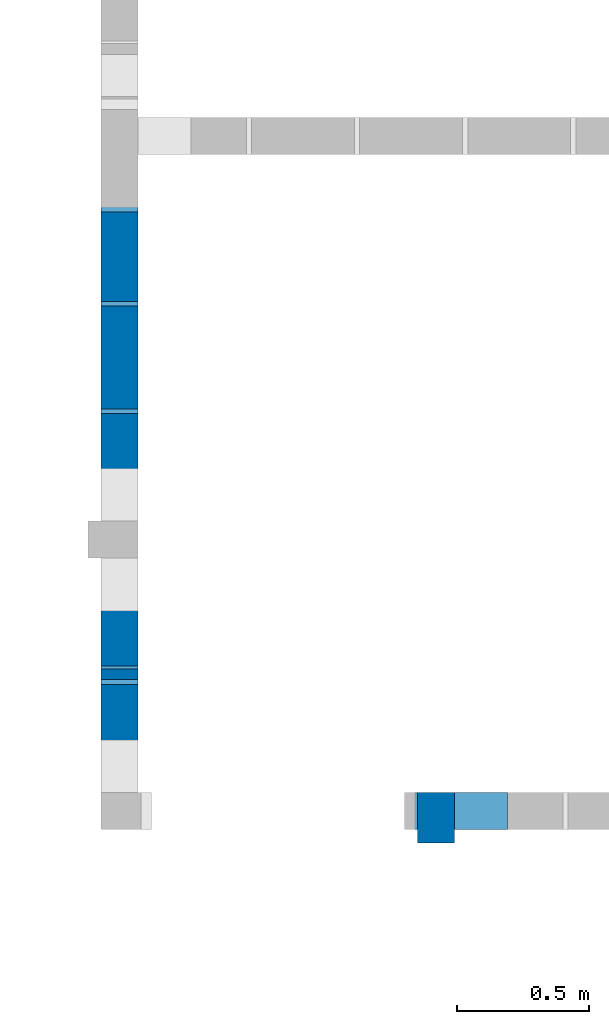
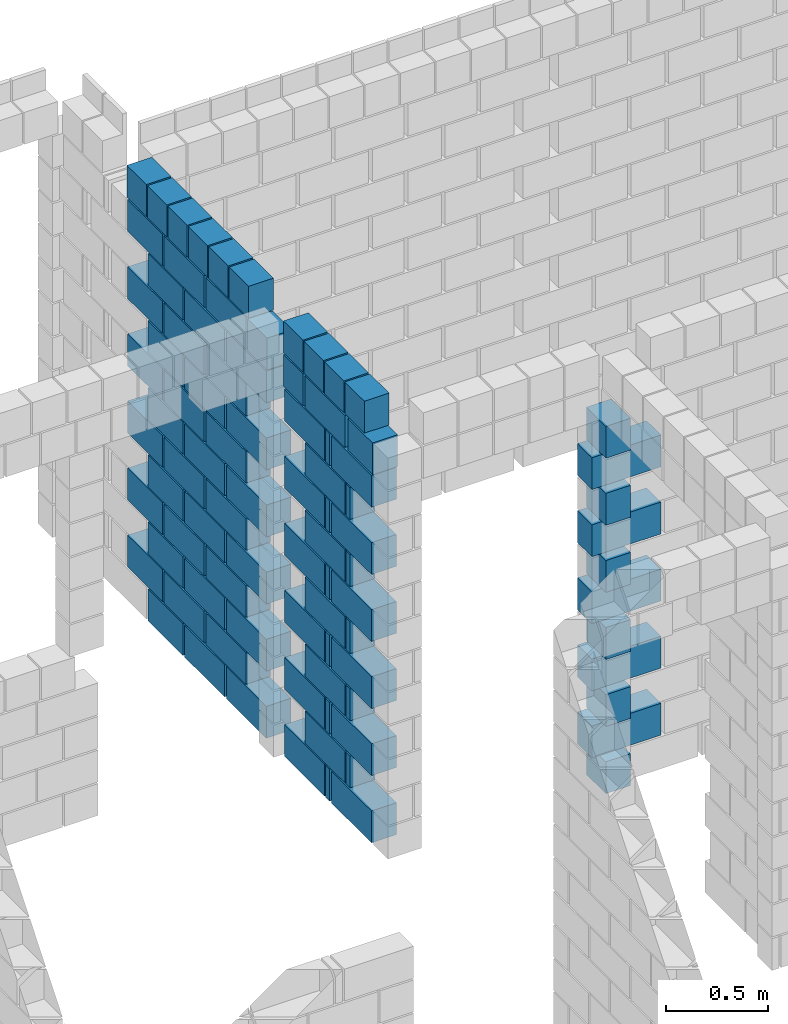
# One storey, part 9 of 12: 3 walls.
"""IFC4 building model written with IfcOpenShell, lengths in centimetres."""

from ifc_helpers import new_model, si_unit, derived_unit, frame, origin, origin_with_axes, origin_2d_with_axis, place, context, project, spatial, rectangle, extrude, element, save


model = new_model("IFC4")

# Units and contexts
model_context = context("Model", 3, precision=1e-05, world=origin_with_axes(), identifier="Body")
ifc_project = project(units=[si_unit("LENGTHUNIT", "METRE", prefix="CENTI"), si_unit("VOLUMEUNIT", "CUBIC_METRE"), si_unit("AREAUNIT", "SQUARE_METRE"), si_unit("POWERUNIT", "WATT"), si_unit("LUMINOUSFLUXUNIT", "LUMEN"), si_unit("ELECTRICCURRENTUNIT", "AMPERE"), si_unit("PRESSUREUNIT", "PASCAL", prefix="KILO"), si_unit("MASSUNIT", "GRAM", prefix="KILO"), si_unit("PLANEANGLEUNIT", "RADIAN"), derived_unit("VOLUMETRICFLOWRATEUNIT", [(si_unit("LENGTHUNIT", "METRE"), 3), (si_unit("TIMEUNIT", "SECOND"), -1)])], contexts=[model_context])

# Site, building, storey
site_placement = place(None, origin_with_axes())
site = spatial("IfcSite", under=ifc_project, at=site_placement)
building_placement = place(site_placement, origin())
building = spatial("IfcBuilding", under=site, at=building_placement)
storey_placement = place(building_placement, origin_with_axes())
storey = spatial("IfcBuildingStorey", under=building, at=storey_placement, Name="PISO", CompositionType="ELEMENT", Elevation=0.0)

# Walls
wall_1_placement = place(storey_placement, frame((411.51, 554.51, 219.0), z_axis=(0.0, 0.0, 1.0), x_axis=(1.0, 0.0, 0.0)))
element("IfcWall", 1, at=wall_1_placement, inside=storey, context=model_context, shape_type="SolidModel", body=[
    extrude(rectangle(XDim=19.0, YDim=14.0, at=origin_2d_with_axis()), frame((-7.5, 0.0, -219.0), z_axis=(0.0, 0.0, 1.0), x_axis=(0.0, -1.0, 0.0)), (0.0, 0.0, 1.0), 19.0),
    extrude(rectangle(XDim=39.0, YDim=14.0, at=origin_2d_with_axis()), frame((0.0, 2.5, -199.0), z_axis=(0.0, 0.0, 1.0), x_axis=(-1.0, 0.0, 0.0)), (0.0, 0.0, 1.0), 19.0),
    extrude(rectangle(XDim=19.0, YDim=14.0, at=origin_2d_with_axis()), frame((-7.5, 0.0, -179.0), z_axis=(0.0, 0.0, 1.0), x_axis=(0.0, -1.0, 0.0)), (0.0, 0.0, 1.0), 19.0),
    extrude(rectangle(XDim=39.0, YDim=14.0, at=origin_2d_with_axis()), frame((0.0, 2.5, -159.0), z_axis=(0.0, 0.0, 1.0), x_axis=(-1.0, 0.0, 0.0)), (0.0, 0.0, 1.0), 19.0),
    extrude(rectangle(XDim=19.0, YDim=14.0, at=origin_2d_with_axis()), frame((-7.5, 0.0, -139.0), z_axis=(0.0, 0.0, 1.0), x_axis=(0.0, -1.0, 0.0)), (0.0, 0.0, 1.0), 19.0),
    extrude(rectangle(XDim=39.0, YDim=14.0, at=origin_2d_with_axis()), frame((0.0, 2.5, -119.0), z_axis=(0.0, 0.0, 1.0), x_axis=(-1.0, 0.0, 0.0)), (0.0, 0.0, 1.0), 19.0),
    extrude(rectangle(XDim=19.0, YDim=14.0, at=origin_2d_with_axis()), frame((-7.5, 0.0, -99.0), z_axis=(0.0, 0.0, 1.0), x_axis=(0.0, -1.0, 0.0)), (0.0, 0.0, 1.0), 19.0),
    extrude(rectangle(XDim=39.0, YDim=14.0, at=origin_2d_with_axis()), frame((0.0, 2.5, -79.0), z_axis=(0.0, 0.0, 1.0), x_axis=(-1.0, 0.0, 0.0)), (0.0, 0.0, 1.0), 19.0),
    extrude(rectangle(XDim=19.0, YDim=14.0, at=origin_2d_with_axis()), frame((-7.5, 0.0, -59.0), z_axis=(0.0, 0.0, 1.0), x_axis=(0.0, -1.0, 0.0)), (0.0, 0.0, 1.0), 19.0),
    extrude(rectangle(XDim=39.0, YDim=14.0, at=origin_2d_with_axis()), frame((0.0, 2.5, -39.0), z_axis=(0.0, 0.0, 1.0), x_axis=(-1.0, 0.0, 0.0)), (0.0, 0.0, 1.0), 19.0),
    extrude(rectangle(XDim=19.0, YDim=14.0, at=origin_2d_with_axis()), frame((-7.5, 0.0, -19.0), z_axis=(0.0, 0.0, 1.0), x_axis=(0.0, -1.0, 0.0)), (0.0, 0.0, 1.0), 19.0),
])
wall_2_placement = place(storey_placement, frame((284.0, 736.51, 259.0), z_axis=(0.0, 0.0, 1.0), x_axis=(1.0, 0.0, 0.0)))
element("IfcWall", 2, at=wall_2_placement, inside=storey, Name="PAR-PISO-13", context=model_context, shape_type="SolidModel", body=[
    extrude(rectangle(XDim=34.0, YDim=14.0, at=origin_2d_with_axis()), frame((0.0, 30.75, -259.0), z_axis=(0.0, 0.0, 1.0), x_axis=(0.0, -1.0, 0.0)), (0.0, 0.0, 1.0), 19.0),
    extrude(rectangle(XDim=39.0, YDim=14.0, at=origin_2d_with_axis()), frame((0.0, -7.5, -259.0), z_axis=(0.0, 0.0, 1.0), x_axis=(0.0, -1.0, 0.0)), (0.0, 0.0, 1.0), 19.0),
    extrude(rectangle(XDim=39.0, YDim=14.0, at=origin_2d_with_axis()), frame((0.0, -48.25, -259.0), z_axis=(0.0, 0.0, 1.0), x_axis=(0.0, -1.0, 0.0)), (0.0, 0.0, 1.0), 19.0),
    extrude(rectangle(XDim=34.0, YDim=14.0, at=origin_2d_with_axis()), frame((0.0, 50.75, -239.0), z_axis=(0.0, 0.0, 1.0), x_axis=(0.0, -1.0, 0.0)), (0.0, 0.0, 1.0), 19.0),
    extrude(rectangle(XDim=39.0, YDim=14.0, at=origin_2d_with_axis()), frame((0.0, 12.5, -239.0), z_axis=(0.0, 0.0, 1.0), x_axis=(0.0, -1.0, 0.0)), (0.0, 0.0, 1.0), 19.0),
    extrude(rectangle(XDim=39.0, YDim=14.0, at=origin_2d_with_axis()), frame((0.0, -28.25, -239.0), z_axis=(0.0, 0.0, 1.0), x_axis=(0.0, -1.0, 0.0)), (0.0, 0.0, 1.0), 19.0),
    extrude(rectangle(XDim=34.0, YDim=14.0, at=origin_2d_with_axis()), frame((0.0, 30.75, -219.0), z_axis=(0.0, 0.0, 1.0), x_axis=(0.0, -1.0, 0.0)), (0.0, 0.0, 1.0), 19.0),
    extrude(rectangle(XDim=39.0, YDim=14.0, at=origin_2d_with_axis()), frame((0.0, -7.5, -219.0), z_axis=(0.0, 0.0, 1.0), x_axis=(0.0, -1.0, 0.0)), (0.0, 0.0, 1.0), 19.0),
    extrude(rectangle(XDim=39.0, YDim=14.0, at=origin_2d_with_axis()), frame((0.0, -48.25, -219.0), z_axis=(0.0, 0.0, 1.0), x_axis=(0.0, -1.0, 0.0)), (0.0, 0.0, 1.0), 19.0),
    extrude(rectangle(XDim=34.0, YDim=14.0, at=origin_2d_with_axis()), frame((0.0, 50.75, -199.0), z_axis=(0.0, 0.0, 1.0), x_axis=(0.0, -1.0, 0.0)), (0.0, 0.0, 1.0), 19.0),
    extrude(rectangle(XDim=39.0, YDim=14.0, at=origin_2d_with_axis()), frame((0.0, 12.5, -199.0), z_axis=(0.0, 0.0, 1.0), x_axis=(0.0, -1.0, 0.0)), (0.0, 0.0, 1.0), 19.0),
    extrude(rectangle(XDim=39.0, YDim=14.0, at=origin_2d_with_axis()), frame((0.0, -28.25, -199.0), z_axis=(0.0, 0.0, 1.0), x_axis=(0.0, -1.0, 0.0)), (0.0, 0.0, 1.0), 19.0),
    extrude(rectangle(XDim=34.0, YDim=14.0, at=origin_2d_with_axis()), frame((0.0, 30.75, -179.0), z_axis=(0.0, 0.0, 1.0), x_axis=(0.0, -1.0, 0.0)), (0.0, 0.0, 1.0), 19.0),
    extrude(rectangle(XDim=39.0, YDim=14.0, at=origin_2d_with_axis()), frame((0.0, -7.5, -179.0), z_axis=(0.0, 0.0, 1.0), x_axis=(0.0, -1.0, 0.0)), (0.0, 0.0, 1.0), 19.0),
    extrude(rectangle(XDim=39.0, YDim=14.0, at=origin_2d_with_axis()), frame((0.0, -48.25, -179.0), z_axis=(0.0, 0.0, 1.0), x_axis=(0.0, -1.0, 0.0)), (0.0, 0.0, 1.0), 19.0),
    extrude(rectangle(XDim=34.0, YDim=14.0, at=origin_2d_with_axis()), frame((0.0, 50.75, -159.0), z_axis=(0.0, 0.0, 1.0), x_axis=(0.0, -1.0, 0.0)), (0.0, 0.0, 1.0), 19.0),
    extrude(rectangle(XDim=39.0, YDim=14.0, at=origin_2d_with_axis()), frame((0.0, 12.5, -159.0), z_axis=(0.0, 0.0, 1.0), x_axis=(0.0, -1.0, 0.0)), (0.0, 0.0, 1.0), 19.0),
    extrude(rectangle(XDim=39.0, YDim=14.0, at=origin_2d_with_axis()), frame((0.0, -28.25, -159.0), z_axis=(0.0, 0.0, 1.0), x_axis=(0.0, -1.0, 0.0)), (0.0, 0.0, 1.0), 19.0),
    extrude(rectangle(XDim=34.0, YDim=14.0, at=origin_2d_with_axis()), frame((0.0, 30.75, -139.0), z_axis=(0.0, 0.0, 1.0), x_axis=(0.0, -1.0, 0.0)), (0.0, 0.0, 1.0), 19.0),
    extrude(rectangle(XDim=39.0, YDim=14.0, at=origin_2d_with_axis()), frame((0.0, -7.5, -139.0), z_axis=(0.0, 0.0, 1.0), x_axis=(0.0, -1.0, 0.0)), (0.0, 0.0, 1.0), 19.0),
    extrude(rectangle(XDim=39.0, YDim=14.0, at=origin_2d_with_axis()), frame((0.0, -48.25, -139.0), z_axis=(0.0, 0.0, 1.0), x_axis=(0.0, -1.0, 0.0)), (0.0, 0.0, 1.0), 19.0),
    extrude(rectangle(XDim=34.0, YDim=14.0, at=origin_2d_with_axis()), frame((0.0, 50.75, -119.0), z_axis=(0.0, 0.0, 1.0), x_axis=(0.0, -1.0, 0.0)), (0.0, 0.0, 1.0), 19.0),
    extrude(rectangle(XDim=39.0, YDim=14.0, at=origin_2d_with_axis()), frame((0.0, 12.5, -119.0), z_axis=(0.0, 0.0, 1.0), x_axis=(0.0, -1.0, 0.0)), (0.0, 0.0, 1.0), 19.0),
    extrude(rectangle(XDim=39.0, YDim=14.0, at=origin_2d_with_axis()), frame((0.0, -28.25, -119.0), z_axis=(0.0, 0.0, 1.0), x_axis=(0.0, -1.0, 0.0)), (0.0, 0.0, 1.0), 19.0),
    extrude(rectangle(XDim=34.0, YDim=14.0, at=origin_2d_with_axis()), frame((0.0, 30.75, -99.0), z_axis=(0.0, 0.0, 1.0), x_axis=(0.0, -1.0, 0.0)), (0.0, 0.0, 1.0), 19.0),
    extrude(rectangle(XDim=39.0, YDim=14.0, at=origin_2d_with_axis()), frame((0.0, -7.5, -99.0), z_axis=(0.0, 0.0, 1.0), x_axis=(0.0, -1.0, 0.0)), (0.0, 0.0, 1.0), 19.0),
    extrude(rectangle(XDim=39.0, YDim=14.0, at=origin_2d_with_axis()), frame((0.0, -48.25, -99.0), z_axis=(0.0, 0.0, 1.0), x_axis=(0.0, -1.0, 0.0)), (0.0, 0.0, 1.0), 19.0),
    extrude(rectangle(XDim=34.0, YDim=14.0, at=origin_2d_with_axis()), frame((0.0, 50.75, -79.0), z_axis=(0.0, 0.0, 1.0), x_axis=(0.0, -1.0, 0.0)), (0.0, 0.0, 1.0), 19.0),
    extrude(rectangle(XDim=39.0, YDim=14.0, at=origin_2d_with_axis()), frame((0.0, 12.5, -79.0), z_axis=(0.0, 0.0, 1.0), x_axis=(0.0, -1.0, 0.0)), (0.0, 0.0, 1.0), 19.0),
    extrude(rectangle(XDim=39.0, YDim=14.0, at=origin_2d_with_axis()), frame((0.0, -28.25, -79.0), z_axis=(0.0, 0.0, 1.0), x_axis=(0.0, -1.0, 0.0)), (0.0, 0.0, 1.0), 19.0),
    extrude(rectangle(XDim=34.0, YDim=14.0, at=origin_2d_with_axis()), frame((0.0, 30.75, -59.0), z_axis=(0.0, 0.0, 1.0), x_axis=(0.0, -1.0, 0.0)), (0.0, 0.0, 1.0), 19.0),
    extrude(rectangle(XDim=39.0, YDim=14.0, at=origin_2d_with_axis()), frame((0.0, -7.5, -59.0), z_axis=(0.0, 0.0, 1.0), x_axis=(0.0, -1.0, 0.0)), (0.0, 0.0, 1.0), 19.0),
    extrude(rectangle(XDim=39.0, YDim=14.0, at=origin_2d_with_axis()), frame((0.0, -48.25, -59.0), z_axis=(0.0, 0.0, 1.0), x_axis=(0.0, -1.0, 0.0)), (0.0, 0.0, 1.0), 19.0),
    extrude(rectangle(XDim=34.0, YDim=14.0, at=origin_2d_with_axis()), frame((0.0, 50.75, -39.0), z_axis=(0.0, 0.0, 1.0), x_axis=(0.0, -1.0, 0.0)), (0.0, 0.0, 1.0), 19.0),
    extrude(rectangle(XDim=39.0, YDim=14.0, at=origin_2d_with_axis()), frame((0.0, 12.5, -39.0), z_axis=(0.0, 0.0, 1.0), x_axis=(0.0, -1.0, 0.0)), (0.0, 0.0, 1.0), 19.0),
    extrude(rectangle(XDim=39.0, YDim=14.0, at=origin_2d_with_axis()), frame((0.0, -28.25, -39.0), z_axis=(0.0, 0.0, 1.0), x_axis=(0.0, -1.0, 0.0)), (0.0, 0.0, 1.0), 19.0),
    extrude(rectangle(XDim=19.0, YDim=14.0, at=origin_2d_with_axis()), frame((0.0, -59.0, -39.0), z_axis=(0.0, 0.0, 1.0), x_axis=(0.0, -1.0, 0.0)), (0.0, 0.0, 1.0), 19.0),
    extrude(rectangle(XDim=19.0, YDim=14.0, at=origin_2d_with_axis()), frame((0.0, 59.0, -19.0), z_axis=(0.0, 0.0, 1.0), x_axis=(0.0, -1.0, 0.0)), (0.0, 0.0, 1.0), 19.0),
    extrude(rectangle(XDim=19.0, YDim=14.0, at=origin_2d_with_axis()), frame((0.0, 39.0, -19.0), z_axis=(0.0, 0.0, 1.0), x_axis=(0.0, -1.0, 0.0)), (0.0, 0.0, 1.0), 19.0),
    extrude(rectangle(XDim=19.0, YDim=14.0, at=origin_2d_with_axis()), frame((0.0, 19.0, -19.0), z_axis=(0.0, 0.0, 1.0), x_axis=(0.0, -1.0, 0.0)), (0.0, 0.0, 1.0), 19.0),
    extrude(rectangle(XDim=19.0, YDim=14.0, at=origin_2d_with_axis()), frame((0.0, -1.0, -19.0), z_axis=(0.0, 0.0, 1.0), x_axis=(0.0, -1.0, 0.0)), (0.0, 0.0, 1.0), 19.0),
    extrude(rectangle(XDim=19.0, YDim=14.0, at=origin_2d_with_axis()), frame((0.0, -21.0, -19.0), z_axis=(0.0, 0.0, 1.0), x_axis=(0.0, -1.0, 0.0)), (0.0, 0.0, 1.0), 19.0),
    extrude(rectangle(XDim=19.0, YDim=14.0, at=origin_2d_with_axis()), frame((0.0, -41.0, -19.0), z_axis=(0.0, 0.0, 1.0), x_axis=(0.0, -1.0, 0.0)), (0.0, 0.0, 1.0), 19.0),
])
wall_3_placement = place(storey_placement, frame((284.0, 608.51, 259.0), z_axis=(0.0, 0.0, 1.0), x_axis=(1.0, 0.0, 0.0)))
element("IfcWall", 3, at=wall_3_placement, inside=storey, Name="PAR-PISO-13", context=model_context, shape_type="SolidModel", body=[
    extrude(rectangle(XDim=39.0, YDim=14.0, at=origin_2d_with_axis()), frame((0.0, 23.0, -259.0), z_axis=(0.0, 0.0, 1.0), x_axis=(0.0, -1.0, 0.0)), (0.0, 0.0, 1.0), 19.0),
    extrude(rectangle(XDim=39.0, YDim=14.0, at=origin_2d_with_axis()), frame((0.0, -23.0, -259.0), z_axis=(0.0, 0.0, 1.0), x_axis=(0.0, -1.0, 0.0)), (0.0, 0.0, 1.0), 19.0),
    extrude(rectangle(XDim=4.0, YDim=14.0, at=origin_2d_with_axis()), frame((0.0, 0.5, -259.0), z_axis=(0.0, 0.0, 1.0), x_axis=(0.0, -1.0, 0.0)), (0.0, 0.0, 1.0), 19.0),
    extrude(rectangle(XDim=39.0, YDim=14.0, at=origin_2d_with_axis()), frame((0.0, 3.0, -239.0), z_axis=(0.0, 0.0, 1.0), x_axis=(0.0, -1.0, 0.0)), (0.0, 0.0, 1.0), 19.0),
    extrude(rectangle(XDim=4.0, YDim=14.0, at=origin_2d_with_axis()), frame((0.0, -19.5, -239.0), z_axis=(0.0, 0.0, 1.0), x_axis=(0.0, -1.0, 0.0)), (0.0, 0.0, 1.0), 19.0),
    extrude(rectangle(XDim=39.0, YDim=14.0, at=origin_2d_with_axis()), frame((0.0, 23.0, -219.0), z_axis=(0.0, 0.0, 1.0), x_axis=(0.0, -1.0, 0.0)), (0.0, 0.0, 1.0), 19.0),
    extrude(rectangle(XDim=39.0, YDim=14.0, at=origin_2d_with_axis()), frame((0.0, -23.0, -219.0), z_axis=(0.0, 0.0, 1.0), x_axis=(0.0, -1.0, 0.0)), (0.0, 0.0, 1.0), 19.0),
    extrude(rectangle(XDim=4.0, YDim=14.0, at=origin_2d_with_axis()), frame((0.0, 0.5, -219.0), z_axis=(0.0, 0.0, 1.0), x_axis=(0.0, -1.0, 0.0)), (0.0, 0.0, 1.0), 19.0),
    extrude(rectangle(XDim=39.0, YDim=14.0, at=origin_2d_with_axis()), frame((0.0, 3.0, -199.0), z_axis=(0.0, 0.0, 1.0), x_axis=(0.0, -1.0, 0.0)), (0.0, 0.0, 1.0), 19.0),
    extrude(rectangle(XDim=4.0, YDim=14.0, at=origin_2d_with_axis()), frame((0.0, -19.5, -199.0), z_axis=(0.0, 0.0, 1.0), x_axis=(0.0, -1.0, 0.0)), (0.0, 0.0, 1.0), 19.0),
    extrude(rectangle(XDim=39.0, YDim=14.0, at=origin_2d_with_axis()), frame((0.0, 23.0, -179.0), z_axis=(0.0, 0.0, 1.0), x_axis=(0.0, -1.0, 0.0)), (0.0, 0.0, 1.0), 19.0),
    extrude(rectangle(XDim=39.0, YDim=14.0, at=origin_2d_with_axis()), frame((0.0, -23.0, -179.0), z_axis=(0.0, 0.0, 1.0), x_axis=(0.0, -1.0, 0.0)), (0.0, 0.0, 1.0), 19.0),
    extrude(rectangle(XDim=4.0, YDim=14.0, at=origin_2d_with_axis()), frame((0.0, 0.5, -179.0), z_axis=(0.0, 0.0, 1.0), x_axis=(0.0, -1.0, 0.0)), (0.0, 0.0, 1.0), 19.0),
    extrude(rectangle(XDim=39.0, YDim=14.0, at=origin_2d_with_axis()), frame((0.0, 3.0, -159.0), z_axis=(0.0, 0.0, 1.0), x_axis=(0.0, -1.0, 0.0)), (0.0, 0.0, 1.0), 19.0),
    extrude(rectangle(XDim=4.0, YDim=14.0, at=origin_2d_with_axis()), frame((0.0, -19.5, -159.0), z_axis=(0.0, 0.0, 1.0), x_axis=(0.0, -1.0, 0.0)), (0.0, 0.0, 1.0), 19.0),
    extrude(rectangle(XDim=39.0, YDim=14.0, at=origin_2d_with_axis()), frame((0.0, 23.0, -139.0), z_axis=(0.0, 0.0, 1.0), x_axis=(0.0, -1.0, 0.0)), (0.0, 0.0, 1.0), 19.0),
    extrude(rectangle(XDim=39.0, YDim=14.0, at=origin_2d_with_axis()), frame((0.0, -23.0, -139.0), z_axis=(0.0, 0.0, 1.0), x_axis=(0.0, -1.0, 0.0)), (0.0, 0.0, 1.0), 19.0),
    extrude(rectangle(XDim=4.0, YDim=14.0, at=origin_2d_with_axis()), frame((0.0, 0.5, -139.0), z_axis=(0.0, 0.0, 1.0), x_axis=(0.0, -1.0, 0.0)), (0.0, 0.0, 1.0), 19.0),
    extrude(rectangle(XDim=39.0, YDim=14.0, at=origin_2d_with_axis()), frame((0.0, 3.0, -119.0), z_axis=(0.0, 0.0, 1.0), x_axis=(0.0, -1.0, 0.0)), (0.0, 0.0, 1.0), 19.0),
    extrude(rectangle(XDim=4.0, YDim=14.0, at=origin_2d_with_axis()), frame((0.0, -19.5, -119.0), z_axis=(0.0, 0.0, 1.0), x_axis=(0.0, -1.0, 0.0)), (0.0, 0.0, 1.0), 19.0),
    extrude(rectangle(XDim=39.0, YDim=14.0, at=origin_2d_with_axis()), frame((0.0, 23.0, -99.0), z_axis=(0.0, 0.0, 1.0), x_axis=(0.0, -1.0, 0.0)), (0.0, 0.0, 1.0), 19.0),
    extrude(rectangle(XDim=39.0, YDim=14.0, at=origin_2d_with_axis()), frame((0.0, -23.0, -99.0), z_axis=(0.0, 0.0, 1.0), x_axis=(0.0, -1.0, 0.0)), (0.0, 0.0, 1.0), 19.0),
    extrude(rectangle(XDim=4.0, YDim=14.0, at=origin_2d_with_axis()), frame((0.0, 0.5, -99.0), z_axis=(0.0, 0.0, 1.0), x_axis=(0.0, -1.0, 0.0)), (0.0, 0.0, 1.0), 19.0),
    extrude(rectangle(XDim=39.0, YDim=14.0, at=origin_2d_with_axis()), frame((0.0, 3.0, -79.0), z_axis=(0.0, 0.0, 1.0), x_axis=(0.0, -1.0, 0.0)), (0.0, 0.0, 1.0), 19.0),
    extrude(rectangle(XDim=4.0, YDim=14.0, at=origin_2d_with_axis()), frame((0.0, -19.5, -79.0), z_axis=(0.0, 0.0, 1.0), x_axis=(0.0, -1.0, 0.0)), (0.0, 0.0, 1.0), 19.0),
    extrude(rectangle(XDim=39.0, YDim=14.0, at=origin_2d_with_axis()), frame((0.0, 23.0, -59.0), z_axis=(0.0, 0.0, 1.0), x_axis=(0.0, -1.0, 0.0)), (0.0, 0.0, 1.0), 19.0),
    extrude(rectangle(XDim=39.0, YDim=14.0, at=origin_2d_with_axis()), frame((0.0, -23.0, -59.0), z_axis=(0.0, 0.0, 1.0), x_axis=(0.0, -1.0, 0.0)), (0.0, 0.0, 1.0), 19.0),
    extrude(rectangle(XDim=4.0, YDim=14.0, at=origin_2d_with_axis()), frame((0.0, 0.5, -59.0), z_axis=(0.0, 0.0, 1.0), x_axis=(0.0, -1.0, 0.0)), (0.0, 0.0, 1.0), 19.0),
    extrude(rectangle(XDim=39.0, YDim=14.0, at=origin_2d_with_axis()), frame((0.0, 3.0, -39.0), z_axis=(0.0, 0.0, 1.0), x_axis=(0.0, -1.0, 0.0)), (0.0, 0.0, 1.0), 19.0),
    extrude(rectangle(XDim=24.0, YDim=14.0, at=origin_2d_with_axis()), frame((0.0, -31.5, -39.0), z_axis=(0.0, 0.0, 1.0), x_axis=(0.0, -1.0, 0.0)), (0.0, 0.0, 1.0), 19.0),
    extrude(rectangle(XDim=19.0, YDim=14.0, at=origin_2d_with_axis()), frame((0.0, 34.0, -39.0), z_axis=(0.0, 0.0, 1.0), x_axis=(0.0, -1.0, 0.0)), (0.0, 0.0, 1.0), 19.0),
    extrude(rectangle(XDim=19.0, YDim=14.0, at=origin_2d_with_axis()), frame((0.0, 34.0, -19.0), z_axis=(0.0, 0.0, 1.0), x_axis=(0.0, -1.0, 0.0)), (0.0, 0.0, 1.0), 19.0),
    extrude(rectangle(XDim=19.0, YDim=14.0, at=origin_2d_with_axis()), frame((0.0, 14.0, -19.0), z_axis=(0.0, 0.0, 1.0), x_axis=(0.0, -1.0, 0.0)), (0.0, 0.0, 1.0), 19.0),
    extrude(rectangle(XDim=19.0, YDim=14.0, at=origin_2d_with_axis()), frame((0.0, -6.0, -19.0), z_axis=(0.0, 0.0, 1.0), x_axis=(0.0, -1.0, 0.0)), (0.0, 0.0, 1.0), 19.0),
    extrude(rectangle(XDim=19.0, YDim=14.0, at=origin_2d_with_axis()), frame((0.0, -26.0, -19.0), z_axis=(0.0, 0.0, 1.0), x_axis=(0.0, -1.0, 0.0)), (0.0, 0.0, 1.0), 19.0),
])

save(model, "model.ifc")
